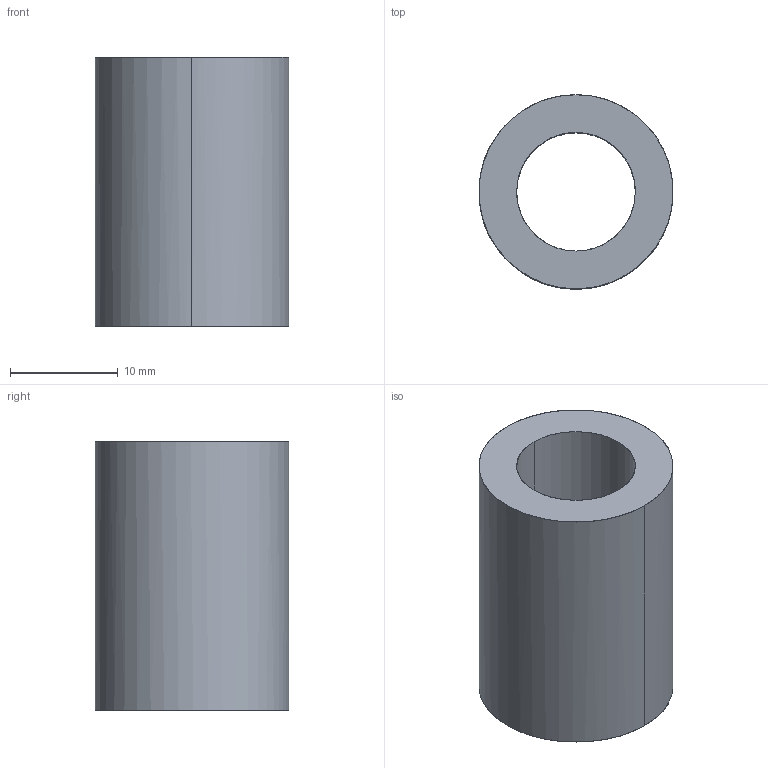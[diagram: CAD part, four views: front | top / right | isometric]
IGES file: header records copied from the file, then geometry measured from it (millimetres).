
Global section: file name: E:\UnigraphicsGraphicData\MISUMI_PRESS-PARTS\IGES\3d_swc18-25_00697_r00.igs; native system: NX V5.0; preprocessor: UGS NX IGES V5.0; author: MISUMI; date: 20110105.163254; units: millimetre
Bounding box: 18 x 18 x 25 mm (x, y, z)
Surface area: 2597.6 mm2 (no closed solid volume)
Topology: 0 solids, 0 shells, 6 faces, 48 edges, 48 vertices
Faces by surface type: bspline 6
